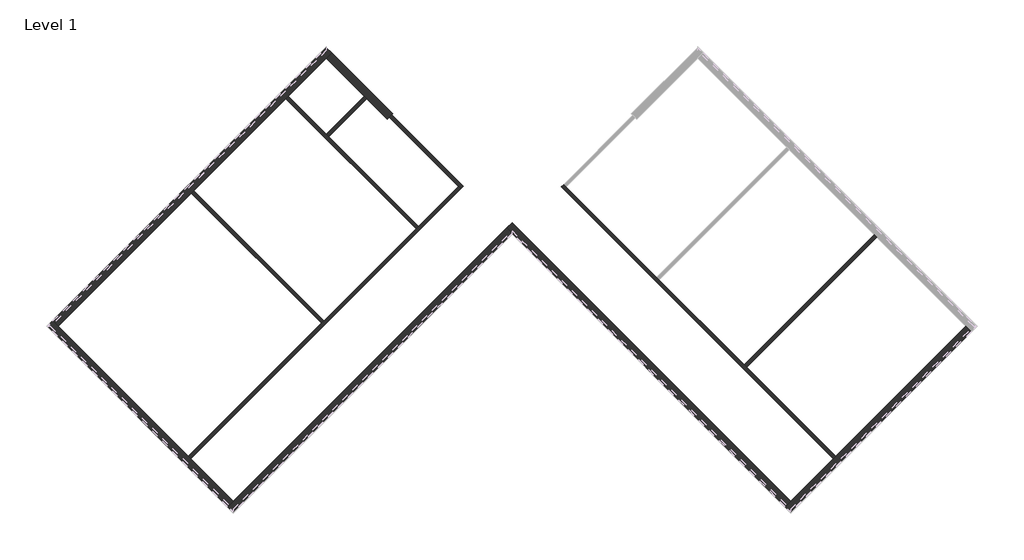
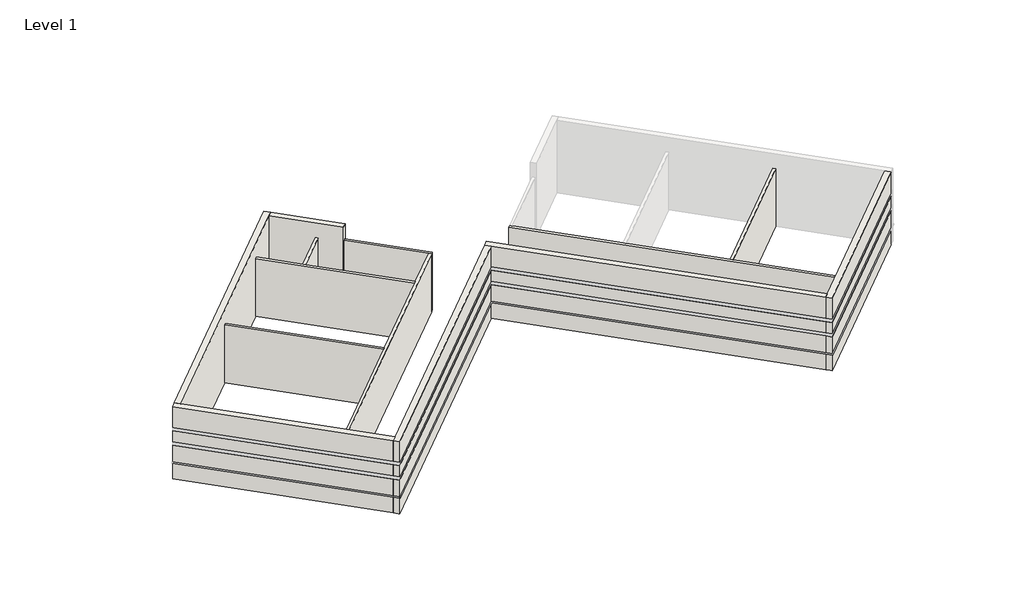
# One storey, part 1 of 2: 13 walls.
"""IFC4 building model written with IfcOpenShell, lengths in millimetres."""

from ifc_helpers import new_model, si_unit, frame, origin, origin_with_axes, place, context, project, spatial, polyline, circle_curve, outline, extrude, faceted_brep, element, save
from ifc_brep_helpers import plane_surface, cylinder_surface, revolved_surface, advanced_brep

model = new_model("IFC4")

# Units and contexts
model_context = context("Model", 3, world=origin())
ifc_project = project(units=[si_unit("LENGTHUNIT", "METRE", prefix="MILLI")], contexts=[model_context])

# Site, building, storey
site = spatial("IfcSite", under=ifc_project)
building = spatial("IfcBuilding", under=site)
storey = spatial("IfcBuildingStorey", under=building, Name="Level 1", Elevation=0.0)

# Walls
placement = place(None, origin())
element("IfcWall", 1, ObjectType="Exterior - Split Face and CMU on Mtl. Stud", at=placement, inside=storey, context=model_context, shape_type="Brep", body=[
    faceted_brep([(18186.1821115, -1357.9895101, 0.0), (12149.2049342, -7394.9666875, 0.0), (12039.1967967, -7504.974825, 0.0), (10063.54045, -9480.6311716, 0.0), (9814.3383427, -9729.833279, 0.0), (9814.3383427, -9729.833279, 1016.0), (9879.4451996, -9664.7264221, 1016.0), (9879.4451996, -9664.7264221, 1085.85), (9814.3383427, -9729.833279, 1085.85), (9814.3383427, -9729.833279, 2133.6), (9879.4451996, -9664.7264221, 2133.6), (9879.4451996, -9664.7264221, 2336.8), (9814.3383427, -9729.833279, 2336.8), (9814.3383427, -9729.833279, 3048.0), (9879.4451996, -9664.7264221, 3048.0), (9879.4451996, -9664.7264221, 3251.2), (9814.3383427, -9729.833279, 3251.2), (9814.3383427, -9729.833279, 4572.0), (10063.54045, -9480.6311716, 4572.0), (18186.1821115, -1357.9895101, 4572.0), (18435.3842189, -1607.1916175, 4572.0), (10063.54045, -9979.0353863, 4572.0), (10063.54045, -9979.0353863, 3251.2), (18435.3842189, -1607.1916175, 3251.2), (10063.54045, -9979.0353863, 0.0), (18435.3842189, -1607.1916175, 0.0), (18435.3842189, -1607.1916175, 1016.0), (10063.54045, -9979.0353863, 1016.0), (10063.54045, -9979.0353863, 1085.85), (18435.3842189, -1607.1916175, 1085.85), (18435.3842189, -1607.1916175, 2133.6), (10063.54045, -9979.0353863, 2133.6), (10063.54045, -9979.0353863, 2336.8), (18435.3842189, -1607.1916175, 2336.8), (18435.3842189, -1607.1916175, 3048.0), (10063.54045, -9979.0353863, 3048.0), (9998.4335932, -9913.9285294, 0.0), (18370.277362, -1542.0847606, 3251.2), (18370.277362, -1542.0847606, 3048.0), (18370.277362, -1542.0847606, 2336.8), (18370.277362, -1542.0847606, 2133.6), (18370.277362, -1542.0847606, 1085.85), (18370.277362, -1542.0847606, 1016.0), (18370.277362, -1542.0847606, 0.0), (10063.54045, -9848.8216726, 1085.85), (10063.54045, -9848.8216726, 1016.0), (10063.54045, -9848.8216726, 2133.6), (10063.54045, -9848.8216726, 2336.8), (10063.54045, -9848.8216726, 3048.0), (10063.54045, -9848.8216726, 3251.2)], [[[0, 1, 2, 3, 4, 5, 6, 7, 8, 9, 10, 11, 12, 13, 14, 15, 16, 17, 18, 19]], [[20, 21, 22, 23]], [[24, 25, 26, 27]], [[28, 29, 30, 31]], [[32, 33, 34, 35]], [[19, 18, 17, 21, 20]], [[21, 17, 16, 22]], [[4, 36, 24, 27, 5]], [[8, 28, 31, 9]], [[12, 32, 35, 13]], [[0, 19, 20, 23, 37, 38, 34, 33, 39, 40, 30, 29, 41, 42, 26, 25, 43]], [[4, 3, 2, 1, 0, 43, 36]], [[43, 25, 24, 36]], [[7, 44, 41, 29, 28, 8]], [[42, 45, 6, 5, 27, 26]], [[44, 45, 42, 41]], [[45, 44, 7, 6]], [[40, 46, 10, 9, 31, 30]], [[11, 47, 39, 33, 32, 12]], [[47, 46, 40, 39]], [[46, 47, 11, 10]], [[38, 48, 14, 13, 35, 34]], [[15, 49, 37, 23, 22, 16]], [[49, 48, 38, 37]], [[48, 49, 15, 14]]]),
])
element("IfcWall", 2, ObjectType="Exterior - Split Face and CMU on Mtl. Stud", at=placement, inside=storey, context=model_context, shape_type="Brep", body=[
    faceted_brep([(10063.54045, -9480.6311716, 0.0), (-2868.0283643, 3450.9376427, 0.0), (-2868.0283643, 3450.9376427, 4572.0), (10063.54045, -9480.6311716, 4572.0), (9814.3383427, -9729.833279, 4572.0), (-2868.0283643, 2952.533428, 4572.0), (-3117.2304717, 3201.7355354, 4572.0), (-3117.2304717, 3201.7355354, 0.0), (-2868.0283643, 2952.533428, 0.0), (9814.3383427, -9729.833279, 0.0), (9814.3383427, -9729.833279, 1016.0), (-2868.0283643, 2952.533428, 1016.0), (-2933.1352212, 3017.6402849, 1016.0), (-2933.1352212, 3017.6402849, 1085.85), (-2868.0283643, 2952.533428, 1085.85), (9814.3383427, -9729.833279, 1085.85), (9814.3383427, -9729.833279, 2133.6), (-2868.0283643, 2952.533428, 2133.6), (-2933.1352212, 3017.6402849, 2133.6), (-2933.1352212, 3017.6402849, 2336.8), (-2868.0283643, 2952.533428, 2336.8), (9814.3383427, -9729.833279, 2336.8), (9814.3383427, -9729.833279, 3048.0), (-2868.0283643, 2952.533428, 3048.0), (-2933.1352212, 3017.6402849, 3048.0), (-2933.1352212, 3017.6402849, 3251.2), (-2868.0283643, 2952.533428, 3251.2), (9814.3383427, -9729.833279, 3251.2), (-3052.1236148, 3266.8423923, 0.0), (9879.4451996, -9664.7264221, 3251.2), (9879.4451996, -9664.7264221, 3048.0), (9879.4451996, -9664.7264221, 2336.8), (9879.4451996, -9664.7264221, 2133.6), (9879.4451996, -9664.7264221, 1085.85), (9879.4451996, -9664.7264221, 1016.0), (9879.4451996, -9664.7264221, 0.0), (-2868.0283643, 3082.7471418, 1085.85), (-2868.0283643, 3082.7471418, 1016.0), (-2868.0283643, 3082.7471418, 2133.6), (-2868.0283643, 3082.7471418, 2336.8), (-2868.0283643, 3082.7471418, 3048.0), (-2868.0283643, 3082.7471418, 3251.2)], [[[0, 1, 2, 3]], [[4, 5, 6, 7, 8, 9, 10, 11, 12, 13, 14, 15, 16, 17, 18, 19, 20, 21, 22, 23, 24, 25, 26, 27]], [[3, 2, 6, 5, 4]], [[2, 1, 28, 7, 6]], [[0, 3, 4, 27, 29, 30, 22, 21, 31, 32, 16, 15, 33, 34, 10, 9, 35]], [[1, 0, 35, 28]], [[35, 9, 8, 7, 28]], [[13, 36, 33, 15, 14]], [[34, 37, 12, 11, 10]], [[36, 37, 34, 33]], [[37, 36, 13, 12]], [[32, 38, 18, 17, 16]], [[19, 39, 31, 21, 20]], [[39, 38, 32, 31]], [[38, 39, 19, 18]], [[30, 40, 24, 23, 22]], [[25, 41, 29, 27, 26]], [[41, 40, 30, 29]], [[40, 41, 25, 24]]]),
])
element("IfcWall", 3, ObjectType="Exterior - Split Face and CMU on Mtl. Stud", at=placement, inside=storey, context=model_context, shape_type="Brep", body=[
    faceted_brep([(-3117.2304717, 3201.7355354, 0.0), (-15799.5971786, -9480.6311716, 0.0), (-16048.799286, -9729.833279, 0.0), (-16048.799286, -9729.833279, 1016.0), (-15983.6924291, -9664.7264221, 1016.0), (-15983.6924291, -9664.7264221, 1085.85), (-16048.799286, -9729.833279, 1085.85), (-16048.799286, -9729.833279, 2133.6), (-15983.6924291, -9664.7264221, 2133.6), (-15983.6924291, -9664.7264221, 2336.8), (-16048.799286, -9729.833279, 2336.8), (-16048.799286, -9729.833279, 3048.0), (-15983.6924291, -9664.7264221, 3048.0), (-15983.6924291, -9664.7264221, 3251.2), (-16048.799286, -9729.833279, 3251.2), (-16048.799286, -9729.833279, 4572.0), (-15799.5971786, -9480.6311716, 4572.0), (-3117.2304717, 3201.7355354, 4572.0), (-2868.0283643, 2952.533428, 4572.0), (-15799.5971786, -9979.0353863, 4572.0), (-15799.5971786, -9979.0353863, 3251.2), (-2868.0283643, 2952.533428, 3251.2), (-15799.5971786, -9979.0353863, 0.0), (-2868.0283643, 2952.533428, 0.0), (-2868.0283643, 2952.533428, 1016.0), (-15799.5971786, -9979.0353863, 1016.0), (-15799.5971786, -9979.0353863, 1085.85), (-2868.0283643, 2952.533428, 1085.85), (-2868.0283643, 2952.533428, 2133.6), (-15799.5971786, -9979.0353863, 2133.6), (-15799.5971786, -9979.0353863, 2336.8), (-2868.0283643, 2952.533428, 2336.8), (-2868.0283643, 2952.533428, 3048.0), (-15799.5971786, -9979.0353863, 3048.0), (-15864.7040355, -9913.9285294, 0.0), (-2933.1352212, 3017.6402849, 3251.2), (-2933.1352212, 3017.6402849, 3048.0), (-2933.1352212, 3017.6402849, 2336.8), (-2933.1352212, 3017.6402849, 2133.6), (-2933.1352212, 3017.6402849, 1085.85), (-2933.1352212, 3017.6402849, 1016.0), (-2933.1352212, 3017.6402849, 0.0), (-15799.5971786, -9848.8216726, 1085.85), (-15799.5971786, -9848.8216726, 1016.0), (-15799.5971786, -9848.8216726, 2133.6), (-15799.5971786, -9848.8216726, 2336.8), (-15799.5971786, -9848.8216726, 3048.0), (-15799.5971786, -9848.8216726, 3251.2)], [[[0, 1, 2, 3, 4, 5, 6, 7, 8, 9, 10, 11, 12, 13, 14, 15, 16, 17]], [[18, 19, 20, 21]], [[22, 23, 24, 25]], [[26, 27, 28, 29]], [[30, 31, 32, 33]], [[17, 16, 15, 19, 18]], [[19, 15, 14, 20]], [[2, 34, 22, 25, 3]], [[6, 26, 29, 7]], [[10, 30, 33, 11]], [[0, 17, 18, 21, 35, 36, 32, 31, 37, 38, 28, 27, 39, 40, 24, 23, 41]], [[2, 1, 0, 41, 34]], [[41, 23, 22, 34]], [[5, 42, 39, 27, 26, 6]], [[40, 43, 4, 3, 25, 24]], [[42, 43, 40, 39]], [[43, 42, 5, 4]], [[38, 44, 8, 7, 29, 28]], [[9, 45, 37, 31, 30, 10]], [[45, 44, 38, 37]], [[44, 45, 9, 8]], [[36, 46, 12, 11, 33, 32]], [[13, 47, 35, 21, 20, 14]], [[47, 46, 36, 35]], [[46, 47, 13, 12]]]),
])
element("IfcWall", 4, ObjectType="Exterior - Split Face and CMU on Mtl. Stud", at=placement, inside=storey, context=model_context, shape_type="Brep", body=[
    faceted_brep([(-15799.5971786, -9480.6311716, 0.0), (-17775.2535253, -7504.974825, 0.0), (-17885.2616628, -7394.9666875, 0.0), (-23922.2388402, -1357.9895101, 0.0), (-24171.4409475, -1108.7874027, 0.0), (-24171.4409475, -1108.7874027, 1016.0), (-24106.3340906, -1173.8942596, 1016.0), (-24106.3340906, -1173.8942596, 1085.85), (-24171.4409475, -1108.7874027, 1085.85), (-24171.4409475, -1108.7874027, 2133.6), (-24106.3340906, -1173.8942596, 2133.6), (-24106.3340906, -1173.8942596, 2336.8), (-24171.4409475, -1108.7874027, 2336.8), (-24171.4409475, -1108.7874027, 3048.0), (-24106.3340906, -1173.8942596, 3048.0), (-24106.3340906, -1173.8942596, 3251.2), (-24171.4409475, -1108.7874027, 3251.2), (-24171.4409475, -1108.7874027, 4572.0), (-23922.2388402, -1357.9895101, 4572.0), (-15799.5971786, -9480.6311716, 4572.0), (-16048.799286, -9729.833279, 4572.0), (-24420.6430549, -1357.9895101, 4572.0), (-24420.6430549, -1357.9895101, 3251.2), (-16048.799286, -9729.833279, 3251.2), (-24420.6430549, -1357.9895101, 0.0), (-16048.799286, -9729.833279, 0.0), (-16048.799286, -9729.833279, 1016.0), (-24420.6430549, -1357.9895101, 1016.0), (-24420.6430549, -1357.9895101, 1085.85), (-16048.799286, -9729.833279, 1085.85), (-16048.799286, -9729.833279, 2133.6), (-24420.6430549, -1357.9895101, 2133.6), (-24420.6430549, -1357.9895101, 2336.8), (-16048.799286, -9729.833279, 2336.8), (-16048.799286, -9729.833279, 3048.0), (-24420.6430549, -1357.9895101, 3048.0), (-24355.536198, -1292.8826532, 0.0), (-15983.6924291, -9664.7264221, 3251.2), (-15983.6924291, -9664.7264221, 3048.0), (-15983.6924291, -9664.7264221, 2336.8), (-15983.6924291, -9664.7264221, 2133.6), (-15983.6924291, -9664.7264221, 1085.85), (-15983.6924291, -9664.7264221, 1016.0), (-15983.6924291, -9664.7264221, 0.0), (-24290.4293411, -1357.9895101, 1085.85), (-24290.4293411, -1357.9895101, 1016.0), (-24290.4293411, -1357.9895101, 2133.6), (-24290.4293411, -1357.9895101, 2336.8), (-24290.4293411, -1357.9895101, 3048.0), (-24290.4293411, -1357.9895101, 3251.2)], [[[0, 1, 2, 3, 4, 5, 6, 7, 8, 9, 10, 11, 12, 13, 14, 15, 16, 17, 18, 19]], [[20, 21, 22, 23]], [[24, 25, 26, 27]], [[28, 29, 30, 31]], [[32, 33, 34, 35]], [[19, 18, 17, 21, 20]], [[21, 17, 16, 22]], [[4, 36, 24, 27, 5]], [[8, 28, 31, 9]], [[12, 32, 35, 13]], [[0, 19, 20, 23, 37, 38, 34, 33, 39, 40, 30, 29, 41, 42, 26, 25, 43]], [[4, 3, 2, 1, 0, 43, 36]], [[43, 25, 24, 36]], [[7, 44, 41, 29, 28, 8]], [[42, 45, 6, 5, 27, 26]], [[44, 45, 42, 41]], [[45, 44, 7, 6]], [[40, 46, 10, 9, 31, 30]], [[11, 47, 39, 33, 32, 12]], [[47, 46, 40, 39]], [[46, 47, 11, 10]], [[38, 48, 14, 13, 35, 34]], [[15, 49, 37, 23, 22, 16]], [[49, 48, 38, 37]], [[48, 49, 15, 14]]]),
])
element("IfcWall", 5, ObjectType="Exterior - Split Face and CMU on Mtl. Stud", at=placement, inside=storey, context=model_context, shape_type="Brep", body=[
    faceted_brep([(-23922.2388402, -1357.9895101, 0.0), (-17743.7048466, 4820.5444835, 0.0), (-17633.6967091, 4930.552621, 0.0), (-13359.2125777, 9205.0367523, 0.0), (-13249.2044403, 9315.0448898, 0.0), (-11489.0742405, 11075.1750895, 0.0), (-11239.8721332, 11324.3771969, 0.0), (-11239.8721332, 11324.3771969, 1016.0), (-11304.9789901, 11259.27034, 1016.0), (-11304.9789901, 11259.27034, 1085.85), (-11239.8721332, 11324.3771969, 1085.85), (-11239.8721332, 11324.3771969, 2133.6), (-11304.9789901, 11259.27034, 2133.6), (-11304.9789901, 11259.27034, 2336.8), (-11239.8721332, 11324.3771969, 2336.8), (-11239.8721332, 11324.3771969, 3048.0), (-11304.9789901, 11259.27034, 3048.0), (-11304.9789901, 11259.27034, 3251.2), (-11239.8721332, 11324.3771969, 3251.2), (-11239.8721332, 11324.3771969, 4572.0), (-11489.0742405, 11075.1750895, 4572.0), (-23922.2388402, -1357.9895101, 4572.0), (-24171.4409475, -1108.7874027, 4572.0), (-11489.0742405, 11573.5793042, 4572.0), (-11489.0742405, 11573.5793042, 3251.2), (-24171.4409475, -1108.7874027, 3251.2), (-11489.0742405, 11573.5793042, 0.0), (-24171.4409475, -1108.7874027, 0.0), (-24171.4409475, -1108.7874027, 1016.0), (-11489.0742405, 11573.5793042, 1016.0), (-11489.0742405, 11573.5793042, 1085.85), (-24171.4409475, -1108.7874027, 1085.85), (-24171.4409475, -1108.7874027, 2133.6), (-11489.0742405, 11573.5793042, 2133.6), (-11489.0742405, 11573.5793042, 2336.8), (-24171.4409475, -1108.7874027, 2336.8), (-24171.4409475, -1108.7874027, 3048.0), (-11489.0742405, 11573.5793042, 3048.0), (-11423.9673837, 11508.4724474, 0.0), (-24106.3340906, -1173.8942596, 3251.2), (-24106.3340906, -1173.8942596, 3048.0), (-24106.3340906, -1173.8942596, 2336.8), (-24106.3340906, -1173.8942596, 2133.6), (-24106.3340906, -1173.8942596, 1085.85), (-24106.3340906, -1173.8942596, 1016.0), (-24106.3340906, -1173.8942596, 0.0), (-11489.0742405, 11443.3655905, 1085.85), (-11489.0742405, 11443.3655905, 1016.0), (-11489.0742405, 11443.3655905, 2133.6), (-11489.0742405, 11443.3655905, 2336.8), (-11489.0742405, 11443.3655905, 3048.0), (-11489.0742405, 11443.3655905, 3251.2)], [[[0, 1, 2, 3, 4, 5, 6, 7, 8, 9, 10, 11, 12, 13, 14, 15, 16, 17, 18, 19, 20, 21]], [[22, 23, 24, 25]], [[26, 27, 28, 29]], [[30, 31, 32, 33]], [[34, 35, 36, 37]], [[21, 20, 19, 23, 22]], [[23, 19, 18, 24]], [[6, 38, 26, 29, 7]], [[10, 30, 33, 11]], [[14, 34, 37, 15]], [[0, 21, 22, 25, 39, 40, 36, 35, 41, 42, 32, 31, 43, 44, 28, 27, 45]], [[6, 5, 4, 3, 2, 1, 0, 45, 38]], [[45, 27, 26, 38]], [[9, 46, 43, 31, 30, 10]], [[44, 47, 8, 7, 29, 28]], [[46, 47, 44, 43]], [[47, 46, 9, 8]], [[42, 48, 12, 11, 33, 32]], [[13, 49, 41, 35, 34, 14]], [[49, 48, 42, 41]], [[48, 49, 13, 12]], [[40, 50, 16, 15, 37, 36]], [[17, 51, 39, 25, 24, 18]], [[51, 50, 40, 39]], [[50, 51, 17, 16]]]),
])
element("IfcWall", 6, ObjectType="Exterior - Split Face and CMU on Mtl. Stud", at=placement, inside=storey, context=model_context, shape_type="AdvancedBrep", body=[
    advanced_brep(
    [(-11489.0742405, 11075.1750895, 0.0), (-9728.9440408, 9315.0448898, 0.0), (-9618.9359033, 9205.0367523, 0.0), (-8658.0122729, 8244.1131219, 0.0), (-8658.0122729, 8244.1131219, 4572.0), (-11489.0742405, 11075.1750895, 4572.0), (-11239.8721332, 11324.3771969, 4572.0), (-8662.486224, 8746.9912878, 4572.0), (-8413.2817722, 8497.7868359, 4572.0), (-8413.2817722, 8497.7868359, 0.0), (-8662.486224, 8746.9912878, 0.0), (-11239.8721332, 11324.3771969, 0.0), (-11239.8721332, 11324.3771969, 1016.0), (-8662.486224, 8746.9912878, 1016.0), (-8597.3787742, 8681.8838379, 1016.0), (-8597.3787742, 8681.8838379, 1085.85), (-8662.486224, 8746.9912878, 1085.85), (-11239.8721332, 11324.3771969, 1085.85), (-11239.8721332, 11324.3771969, 2133.6), (-8662.486224, 8746.9912878, 2133.6), (-8597.3787742, 8681.8838379, 2133.6), (-8597.3787742, 8681.8838379, 2336.8), (-8662.486224, 8746.9912878, 2336.8), (-11239.8721332, 11324.3771969, 2336.8), (-11239.8721332, 11324.3771969, 3048.0), (-8662.486224, 8746.9912878, 3048.0), (-8597.3787742, 8681.8838379, 3048.0), (-8597.3787742, 8681.8838379, 3251.2), (-8662.486224, 8746.9912878, 3251.2), (-11239.8721332, 11324.3771969, 3251.2), (-8478.2967797, 8432.5881297, 0.0), (-11304.9789901, 11259.27034, 3251.2), (-11304.9789901, 11259.27034, 3048.0), (-11304.9789901, 11259.27034, 2336.8), (-11304.9789901, 11259.27034, 2133.6), (-11304.9789901, 11259.27034, 1085.85), (-11304.9789901, 11259.27034, 1016.0), (-11304.9789901, 11259.27034, 0.0), (-8662.3967205, 8616.6880705, 1085.85), (-8662.3967205, 8616.6880705, 1016.0), (-8662.3967205, 8616.6880705, 2336.8), (-8662.3967205, 8616.6880705, 2133.6), (-8662.3967205, 8616.6880705, 3251.2), (-8662.3967205, 8616.6880705, 3048.0)],
    [
        (0, 1),
        (1, 2),
        (2, 3),
        (3, 4),
        (4, 5),
        (5, 0),
        (6, 7),
        (7, 8),
        (8, 9),
        (9, 10),
        (10, 11),
        (11, 12),
        (12, 13),
        (13, 14),
        (14, 15),
        (15, 16),
        (16, 17),
        (17, 18),
        (18, 19),
        (19, 20),
        (20, 21),
        (21, 22),
        (22, 23),
        (23, 24),
        (24, 25),
        (25, 26),
        (26, 27),
        (27, 28),
        (28, 29),
        (29, 6),
        (4, 8, circle_curve(frame((-2868.0283643, 2903.1420194, 4572.0), z_axis=(0.0, 0.0, -1.0), x_axis=(1.0, 0.0, 0.0)), 7877.175)),
        (6, 5),
        (3, 30, circle_curve(frame((-2868.0283643, 2903.1420194, 0.0), z_axis=(0.0, 0.0, -1.0), x_axis=(1.0, 0.0, 0.0)), 7877.175)),
        (30, 9, circle_curve(frame((-2868.0283643, 2903.1420194, 0.0), z_axis=(0.0, 0.0, -1.0), x_axis=(1.0, 0.0, 0.0)), 7877.175)),
        (29, 31),
        (31, 32),
        (32, 24),
        (23, 33),
        (33, 34),
        (34, 18),
        (17, 35),
        (35, 36),
        (36, 12),
        (11, 37),
        (37, 0),
        (37, 30),
        (38, 39),
        (39, 36),
        (35, 38),
        (15, 38, circle_curve(frame((-2868.0283643, 2903.1420194, 1085.85), z_axis=(0.0, 0.0, 1.0), x_axis=(-0.7040995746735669, 0.7101012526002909, 0.0)), 8137.525)),
        (39, 14, circle_curve(frame((-2868.0283643, 2903.1420194, 1016.0), z_axis=(0.0, 0.0, -1.0), x_axis=(-0.7040995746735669, 0.7101012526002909, 0.0)), 8137.525)),
        (40, 41),
        (41, 34),
        (33, 40),
        (41, 20, circle_curve(frame((-2868.0283643, 2903.1420194, 2133.6), z_axis=(0.0, 0.0, -1.0), x_axis=(-0.7120553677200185, 0.70212331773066, 0.0)), 8137.525)),
        (40, 21, circle_curve(frame((-2868.0283643, 2903.1420194, 2336.8), z_axis=(0.0, 0.0, -1.0), x_axis=(-0.7120553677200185, 0.70212331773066, 0.0)), 8137.525)),
        (42, 43),
        (43, 32),
        (31, 42),
        (43, 26, circle_curve(frame((-2868.0283643, 2903.1420194, 3048.0), z_axis=(0.0, 0.0, -1.0), x_axis=(-0.7120553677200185, 0.70212331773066, 0.0)), 8137.525)),
        (42, 27, circle_curve(frame((-2868.0283643, 2903.1420194, 3251.2), z_axis=(0.0, 0.0, -1.0), x_axis=(-0.7120553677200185, 0.70212331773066, 0.0)), 8137.525)),
    ],
    [
        plane_surface(frame((-11738.2763479, 11324.3771969, 0.0), z_axis=(-0.7071067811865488, -0.7071067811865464, 0.0), x_axis=(0.7071067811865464, -0.7071067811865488, 0.0))),
        plane_surface(frame((-11489.0742405, 11573.5793042, 0.0), z_axis=(0.7071067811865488, 0.7071067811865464, 0.0), x_axis=(-0.7071067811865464, 0.7071067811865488, 0.0))),
        plane_surface(frame((-8786.2632499, 8372.3640989, 4572.0), z_axis=(0.0, 0.0, 1.0), x_axis=(0.7071067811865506, 0.7071067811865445, 0.0))),
        revolved_surface(polyline([(5009.146635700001, 2903.1420194, 0.0), (5009.146635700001, 2903.1420194, 4572.0)]), (-2868.0283643, 2903.1420194, 0.0), (0.0, 0.0, -1.0)),
        plane_surface(frame((-24171.4409475, -1607.1916175, 0.0), z_axis=(-0.7071067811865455, 0.7071067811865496, 0.0), x_axis=(0.7071067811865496, 0.7071067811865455, 0.0))),
        plane_surface(frame((-11613.6752942, 11199.7761432, 0.0), z_axis=(0.0, 0.0, -1.0000000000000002), x_axis=(0.7071067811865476, 0.7071067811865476, 0.0))),
        plane_surface(frame((0.0, 0.0, 0.0), z_axis=(0.0, 0.0, -1.0), x_axis=(1.0, 0.0, 0.0))),
        plane_surface(frame((-11489.0742405, 11443.3655905, 1016.0), z_axis=(0.7071067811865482, 0.7071067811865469, 0.0), x_axis=(0.7071067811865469, -0.7071067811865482, 0.0))),
        plane_surface(frame((-2868.0283643, 2903.1420194, 1085.85), z_axis=(0.0, 0.0, -1.0), x_axis=(-0.7040995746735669, 0.7101012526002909, 0.0))),
        plane_surface(frame((-2868.0283643, 2903.1420194, 1016.0), z_axis=(0.0, 0.0, 1.0), x_axis=(-0.7040995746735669, 0.7101012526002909, 0.0))),
        cylinder_surface(frame((-2868.0283643, 2903.1420194, 1016.0), z_axis=(0.0, 0.0, -1.0), x_axis=(-0.7040995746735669, 0.7101012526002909, 0.0)), 8137.525),
        plane_surface(frame((-11489.0742405, 11443.3655905, 2133.6), z_axis=(0.7071067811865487, 0.7071067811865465, 0.0), x_axis=(0.7071067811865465, -0.7071067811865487, 0.0))),
        plane_surface(frame((-2868.0283643, 2903.1420194, 2133.6), z_axis=(0.0, 0.0, 1.0), x_axis=(-0.7120553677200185, 0.70212331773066, 0.0))),
        cylinder_surface(frame((-2868.0283643, 2903.1420194, 2133.6), z_axis=(0.0, 0.0, -1.0), x_axis=(-0.7120553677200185, 0.70212331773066, 0.0)), 8137.525),
        plane_surface(frame((-2868.0283643, 2903.1420194, 2336.8), z_axis=(0.0, 0.0, -1.0), x_axis=(-0.7120553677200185, 0.70212331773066, 0.0))),
        plane_surface(frame((-11489.0742405, 11443.3655905, 3048.0), z_axis=(0.7071067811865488, 0.7071067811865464, 0.0), x_axis=(0.7071067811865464, -0.7071067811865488, 0.0))),
        plane_surface(frame((-2868.0283643, 2903.1420194, 3048.0), z_axis=(0.0, 0.0, 1.0), x_axis=(-0.7120553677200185, 0.70212331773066, 0.0))),
        cylinder_surface(frame((-2868.0283643, 2903.1420194, 3048.0), z_axis=(0.0, 0.0, -1.0), x_axis=(-0.7120553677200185, 0.70212331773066, 0.0)), 8137.525),
        plane_surface(frame((-2868.0283643, 2903.1420194, 3251.2), z_axis=(0.0, 0.0, -1.0), x_axis=(-0.7120553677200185, 0.70212331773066, 0.0))),
    ],
    [
        (0, [[1, 2, 3, 4, 5, 6]]),
        (1, [[7, 8, 9, 10, 11, 12, 13, 14, 15, 16, 17, 18, 19, 20, 21, 22, 23, 24, 25, 26, 27, 28, 29, 30]]),
        (2, [[-5, 31, -8, -7, 32]]),
        (3, [[-4, 33, 34, -9, -31]]),
        (4, [[-6, -32, -30, 35, 36, 37, -24, 38, 39, 40, -18, 41, 42, 43, -12, 44, 45]]),
        (5, [[-3, -2, -1, -45, 46, -33]]),
        (6, [[-44, -11, -10, -34, -46]]),
        (7, [[47, 48, -42, 49]]),
        (8, [[50, -49, -41, -17, -16]]),
        (9, [[-48, 51, -14, -13, -43]]),
        (10, [[-47, -50, -15, -51]]),
        (11, [[52, 53, -39, 54]]),
        (12, [[-53, 55, -20, -19, -40]]),
        (13, [[-52, 56, -21, -55]]),
        (14, [[-56, -54, -38, -23, -22]]),
        (15, [[57, 58, -36, 59]]),
        (16, [[-58, 60, -26, -25, -37]]),
        (17, [[-57, 61, -27, -60]]),
        (18, [[-61, -59, -35, -29, -28]]),
    ],
),
])
element("IfcWall", 7, ObjectType="Interior - 6 1/8\" Partition (2-hr)", at=placement, inside=storey, context=model_context, shape_type="Brep", body=[
    faceted_brep([(-17775.2535253, -7504.974825, 0.0), (-5238.5804157, 5031.6982846, 0.0), (-5238.5804157, 5031.6982846, 3657.6), (-17775.2535253, -7504.974825, 3657.6), (-17885.2616628, -7394.9666875, 0.0), (-17885.2616628, -7394.9666875, 3657.6), (-11706.7276692, -1216.4326939, 3657.6), (-11596.7195317, -1106.4245564, 3657.6), (-7322.2354004, 3168.0595749, 3657.6), (-7212.2272629, 3278.0677124, 3657.6), (-5348.5885532, 5141.7064221, 3657.6), (-5348.5885532, 5141.7064221, 0.0), (-7212.2272629, 3278.0677124, 0.0), (-7322.2354004, 3168.0595749, 0.0), (-11596.7195317, -1106.4245564, 0.0), (-11706.7276692, -1216.4326939, 0.0)], [[[0, 1, 2, 3]], [[4, 5, 6, 7, 8, 9, 10, 11, 12, 13, 14, 15]], [[1, 0, 4, 15, 14, 13, 12, 11]], [[3, 2, 10, 9, 8, 7, 6, 5]], [[0, 3, 5, 4]], [[2, 1, 11, 10]]]),
])
element("IfcWall", 8, ObjectType="Interior - 6 1/8\" Partition (2-hr)", at=placement, inside=storey, context=model_context, shape_type="Brep", body=[
    faceted_brep([(-7212.2272629, 3278.0677124, 0.0), (-11379.066103, 7444.9065526, 0.0), (-11489.0742405, 7554.9146901, 0.0), (-13249.2044403, 9315.0448898, 0.0), (-13249.2044403, 9315.0448898, 3657.6), (-11489.0742405, 7554.9146901, 3657.6), (-11379.066103, 7444.9065526, 3657.6), (-7212.2272629, 3278.0677124, 3657.6), (-7322.2354004, 3168.0595749, 0.0), (-7322.2354004, 3168.0595749, 3657.6), (-13359.2125777, 9205.0367523, 3657.6), (-13359.2125777, 9205.0367523, 0.0)], [[[0, 1, 2, 3, 4, 5, 6, 7]], [[8, 9, 10, 11]], [[3, 2, 1, 0, 8, 11]], [[7, 6, 5, 4, 10, 9]], [[4, 3, 11, 10]], [[0, 7, 9, 8]]]),
])
element("IfcWall", 9, ObjectType="Interior - 6 1/8\" Partition (2-hr)", at=placement, inside=storey, context=model_context, shape_type="AdvancedBrep", body=[
    advanced_brep(
    [(-5128.5722782, 5141.7064221, 0.0), (-8449.0111375, 8462.1452813, 0.0), (-8449.0111375, 8462.1452813, 3657.6), (-5128.5722782, 5141.7064221, 3657.6), (-5238.5804157, 5031.6982846, 0.0), (-5238.5804157, 5031.6982846, 3657.6), (-5348.5885532, 5141.7064221, 3657.6), (-8557.7157352, 8350.8336041, 3657.6), (-8557.7157352, 8350.8336041, 0.0), (-5348.5885532, 5141.7064221, 0.0)],
    [
        (0, 1),
        (1, 2),
        (2, 3),
        (3, 0),
        (4, 5),
        (5, 6),
        (6, 7),
        (7, 8),
        (8, 9),
        (9, 4),
        (0, 4),
        (8, 1, circle_curve(frame((-2868.0283643, 2903.1420194, 0.0), z_axis=(0.0, 0.0, -1.0), x_axis=(1.0, 0.0, 0.0)), 7877.175)),
        (2, 7, circle_curve(frame((-2868.0283643, 2903.1420194, 3657.6), z_axis=(0.0, 0.0, 1.0), x_axis=(1.0, 0.0, 0.0)), 7877.175)),
        (5, 3),
    ],
    [
        plane_surface(frame((-5183.576347, 5196.7104908, 0.0), z_axis=(0.7071067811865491, 0.7071067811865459, 0.0), x_axis=(-0.7071067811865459, 0.7071067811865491, 0.0))),
        plane_surface(frame((-5293.5844845, 5086.7023533, 0.0), z_axis=(-0.7071067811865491, -0.7071067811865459, 0.0), x_axis=(0.7071067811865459, -0.7071067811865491, 0.0))),
        plane_surface(frame((-5183.576347, 5196.7104908, 0.0), z_axis=(0.0, 0.0, -1.0), x_axis=(-0.707106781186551, -0.707106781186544, 0.0))),
        plane_surface(frame((-8573.2406241, 8586.374768, 3657.6), z_axis=(0.0, 0.0, 1.0), x_axis=(-0.707106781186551, -0.707106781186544, 0.0))),
        plane_surface(frame((-17899.854579, -7629.5758786, 0.0), z_axis=(0.7071067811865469, -0.7071067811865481, 0.0), x_axis=(0.7071067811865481, 0.7071067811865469, 0.0))),
        cylinder_surface(frame((-2868.0283643, 2903.1420194, 0.0), z_axis=(0.0, 0.0, -1.0), x_axis=(1.0, 0.0, 0.0)), 7877.175),
    ],
    [
        (0, [[1, 2, 3, 4]]),
        (1, [[5, 6, 7, 8, 9, 10]]),
        (2, [[-1, 11, -10, -9, 12]]),
        (3, [[-3, 13, -7, -6, 14]]),
        (4, [[-4, -14, -5, -11]]),
        (5, [[-2, -12, -8, -13]]),
    ],
),
])
element("IfcWall", 10, ObjectType="Interior - 6 1/8\" Partition (2-hr)", at=placement, inside=storey, context=model_context, shape_type="SweptSolid", body=[
    extrude(outline(polyline([(-11489.0742405, 7554.9146901), (-9728.9440408, 9315.0448898), (-9618.9359033, 9205.0367523), (-11379.066103, 7444.9065526), (-11489.0742405, 7554.9146901)])), origin_with_axes(), (0.0, 0.0, 1.0), 3657.6),
])
element("IfcWall", 11, ObjectType="Interior - 6 1/8\" Partition (2-hr)", at=placement, inside=storey, context=model_context, shape_type="SweptSolid", body=[
    extrude(outline(polyline([(-17633.6967091, 4930.552621), (-11596.7195317, -1106.4245564), (-11706.7276692, -1216.4326939), (-17743.7048466, 4820.5444835), (-17633.6967091, 4930.552621)])), origin_with_axes(), (0.0, 0.0, 1.0), 3657.6),
])
element("IfcWall", 12, ObjectType="Interior - 6 1/8\" Partition (2-hr)", at=placement, inside=storey, context=model_context, shape_type="Brep", body=[
    faceted_brep([(12149.2049342, -7394.9666875, 0.0), (8018.2871185, -3264.0488718, 0.0), (7908.278981, -3154.0407343, 0.0), (3956.9662877, 797.271959, 0.0), (3846.9581502, 907.2800964, 0.0), (-353.5566504, 5107.7948971, 0.0), (-463.5647879, 5217.8030346, 0.0), (-463.5647879, 5217.8030346, 3657.6), (-353.5566504, 5107.7948971, 3657.6), (3846.9581502, 907.2800964, 3657.6), (3956.9662877, 797.271959, 3657.6), (7908.278981, -3154.0407343, 3657.6), (8018.2871185, -3264.0488718, 3657.6), (12149.2049342, -7394.9666875, 3657.6), (12039.1967967, -7504.974825, 0.0), (12039.1967967, -7504.974825, 3657.6), (-573.5729254, 5107.7948971, 3657.6), (-573.5729254, 5107.7948971, 0.0)], [[[0, 1, 2, 3, 4, 5, 6, 7, 8, 9, 10, 11, 12, 13]], [[14, 15, 16, 17]], [[6, 5, 4, 3, 2, 1, 0, 14, 17]], [[13, 12, 11, 10, 9, 8, 7, 16, 15]], [[7, 6, 17, 16]], [[0, 13, 15, 14]]]),
])
element("IfcWall", 13, ObjectType="Interior - 6 1/8\" Partition (2-hr)", at=placement, inside=storey, context=model_context, shape_type="SweptSolid", body=[
    extrude(outline(polyline([(7908.278981, -3154.0407343), (13945.2561584, 2882.9364431), (14055.2642958, 2772.9283056), (8018.2871185, -3264.0488718), (7908.278981, -3154.0407343)])), origin_with_axes(), (0.0, 0.0, 1.0), 3657.6),
])

save(model, "model.ifc")
